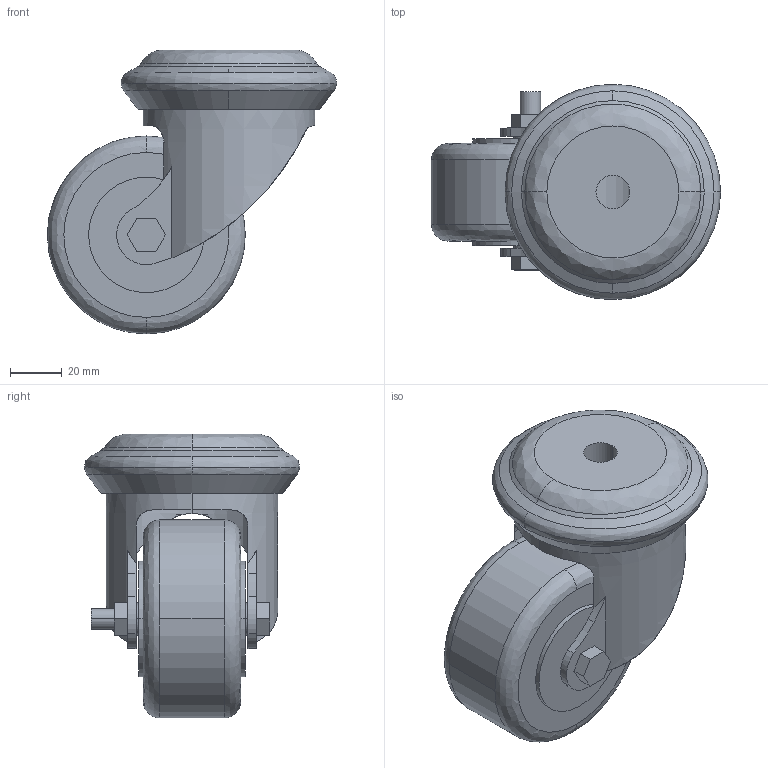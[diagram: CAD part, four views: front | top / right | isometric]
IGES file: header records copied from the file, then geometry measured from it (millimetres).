
Global section: file name: C:\Documents and Settings\Administrator\Desktop\Transfer Temp\caster.igs; native system: AutoDesk Inventor R2.0 ; preprocessor: AutoDesk Inventor Iges Exporter R2.0; author: No Author specified; organization: No Organization specified; date: 20020113.161914; units: inch
Bounding box: 111.35 x 83.01 x 109.25 mm (x, y, z)
Surface area: 52547.5 mm2 (no closed solid volume)
Topology: 0 solids, 0 shells, 96 faces, 492 edges, 492 vertices
Faces by surface type: revolution 58, bspline 38
